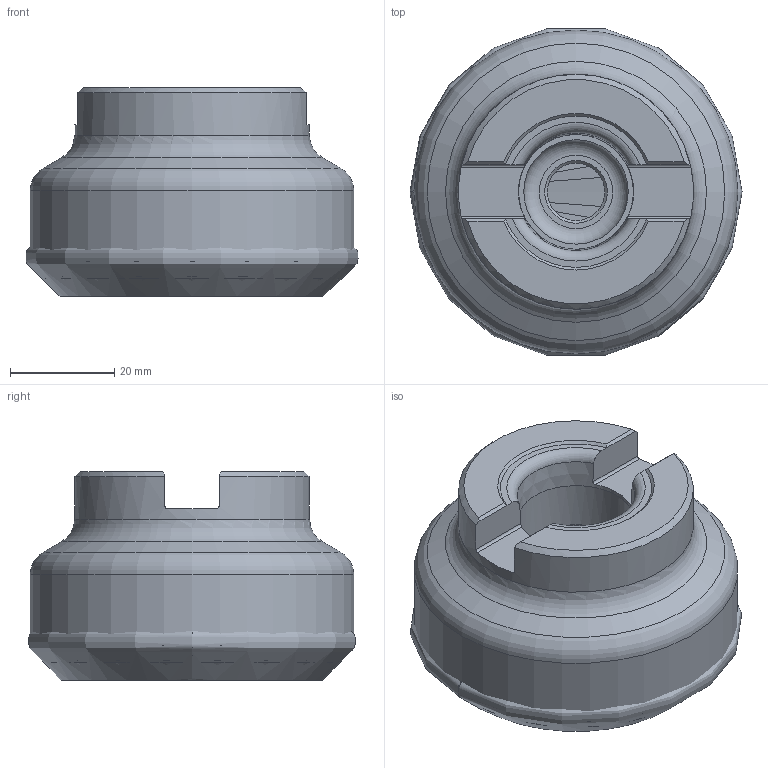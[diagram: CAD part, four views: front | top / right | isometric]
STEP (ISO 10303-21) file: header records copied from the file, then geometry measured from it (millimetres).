
FILE_DESCRIPTION(/* description */ (''),/* implementation_level */ '2;1');
FILE_NAME(/* name */ '637871909230777722.stp',/* time_stamp */ '2022-05-03T16:09:04+08:00',/* author */ (''),/* organization */ (''),/* preprocessor_version */ 'ST-DEVELOPER v16.7',/* originating_system */ 'SIEMENS PLM Software NX 12.0',/* authorisation */ '');
FILE_SCHEMA (('AUTOMOTIVE_DESIGN { 1 0 10303 214 3 1 1 1 }'));
Length unit declared in the file: millimetre
Products named in the file (2): 637871909183180848_SEET12T3-CF; 637871909103049915_FMA01-050-A22-SE12-05C_S
Assembly tree (5 placements, depth 2):
  637871909103049915_FMA01-050-A22-SE12-05C_S
    637871909183180848_SEET12T3-CF  x5
Bounding box: 63.59 x 62.62 x 40.02 mm (x, y, z)
Surface area: 56995.9 mm2
Topology: 2 solids, 2 shells, 72 faces, 175 edges, 110 vertices
Faces by surface type: plane 21, torus 16, cone 14, cylinder 11, revolution 10
Full cylindrical faces by diameter (mm): 11 x1, 18 x1, 22 x1, 24 x1, 45 x1, 57.154 x1, 62 x1
Entity records: 2761 total; most frequent: CARTESIAN_POINT 1232, DIRECTION 292, ORIENTED_EDGE 228, AXIS2_PLACEMENT_3D 129, EDGE_LOOP 118, EDGE_CURVE 114, FACE_BOUND 94, VERTEX_POINT 90
